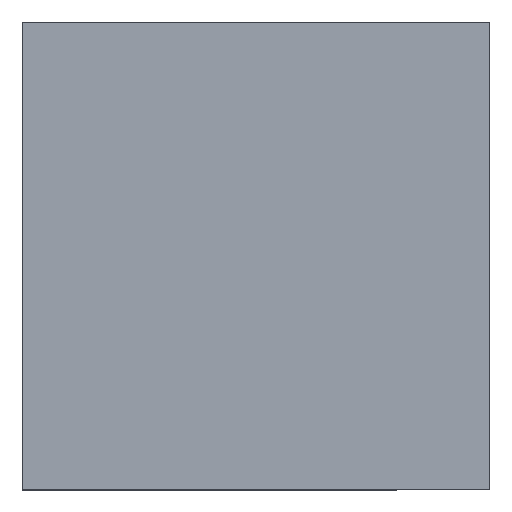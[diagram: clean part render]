
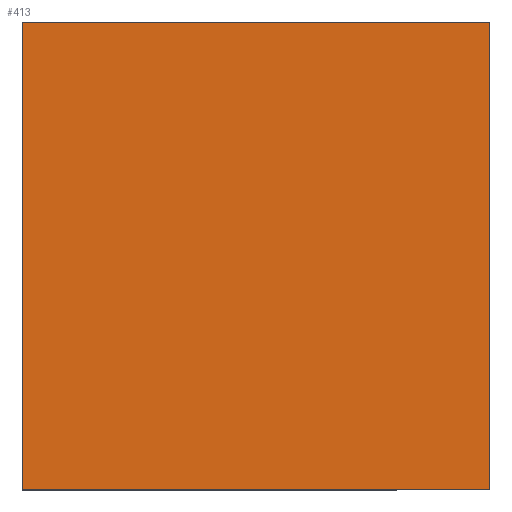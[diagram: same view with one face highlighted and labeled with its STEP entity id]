
A CAD part, top view. The second image highlights one B-rep face of the part: STEP entity #413.
In plain terms, the highlighted planar face has unit normal (0, 0, 1).
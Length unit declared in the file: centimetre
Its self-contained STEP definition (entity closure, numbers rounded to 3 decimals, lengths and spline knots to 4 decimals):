
#59 = CARTESIAN_POINT ( 'NONE',  ( 0., 1000., 1000. ) ) ;
#61 = DIRECTION ( 'NONE',  ( 1., 0., 0. ) ) ;
#68 = LINE ( 'NONE', #59, #485 ) ;
#76 = DIRECTION ( 'NONE',  ( 0., -1., 0. ) ) ;
#129 = EDGE_CURVE ( 'NONE', #356, #390, #68, .T. ) ;
#139 = AXIS2_PLACEMENT_3D ( 'NONE', #183, #553, #61 ) ;
#175 = VECTOR ( 'NONE', #582, 100. ) ;
#183 = CARTESIAN_POINT ( 'NONE',  ( 0., 0., 1000. ) ) ;
#214 = CARTESIAN_POINT ( 'NONE',  ( 0., 1000., 1000. ) ) ;
#249 = LINE ( 'NONE', #313, #486 ) ;
#307 = EDGE_CURVE ( 'NONE', #390, #723, #332, .T. ) ;
#313 = CARTESIAN_POINT ( 'NONE',  ( 0., 1000., 1000. ) ) ;
#330 = VECTOR ( 'NONE', #530, 100. ) ;
#332 = LINE ( 'NONE', #401, #175 ) ;
#339 = LINE ( 'NONE', #465, #330 ) ;
#353 = EDGE_CURVE ( 'NONE', #723, #753, #339, .T. ) ;
#356 = VERTEX_POINT ( 'NONE', #214 ) ;
#390 = VERTEX_POINT ( 'NONE', #521 ) ;
#401 = CARTESIAN_POINT ( 'NONE',  ( 0., 0., 1000. ) ) ;
#402 = CARTESIAN_POINT ( 'NONE',  ( 1000., 0., 1000. ) ) ;
#413 = ADVANCED_FACE ( 'NONE', ( #495 ), #610, .T. ) ;
#430 = EDGE_CURVE ( 'NONE', #753, #356, #249, .T. ) ;
#465 = CARTESIAN_POINT ( 'NONE',  ( 1000., 1000., 1000. ) ) ;
#485 = VECTOR ( 'NONE', #76, 100. ) ;
#486 = VECTOR ( 'NONE', #625, 100. ) ;
#495 = FACE_OUTER_BOUND ( 'NONE', #794, .T. ) ;
#521 = CARTESIAN_POINT ( 'NONE',  ( 0., 0., 1000. ) ) ;
#530 = DIRECTION ( 'NONE',  ( 0., 1., 0. ) ) ;
#547 = ORIENTED_EDGE ( 'NONE', *, *, #430, .T. ) ;
#553 = DIRECTION ( 'NONE',  ( 0., 0., 1. ) ) ;
#582 = DIRECTION ( 'NONE',  ( 1., 0., 0. ) ) ;
#595 = ORIENTED_EDGE ( 'NONE', *, *, #353, .T. ) ;
#610 = PLANE ( 'NONE',  #139 ) ;
#625 = DIRECTION ( 'NONE',  ( -1., 0., 0. ) ) ;
#681 = ORIENTED_EDGE ( 'NONE', *, *, #307, .T. ) ;
#723 = VERTEX_POINT ( 'NONE', #402 ) ;
#753 = VERTEX_POINT ( 'NONE', #775 ) ;
#775 = CARTESIAN_POINT ( 'NONE',  ( 1000., 1000., 1000. ) ) ;
#778 = ORIENTED_EDGE ( 'NONE', *, *, #129, .T. ) ;
#794 = EDGE_LOOP ( 'NONE', ( #778, #681, #595, #547 ) ) ;
